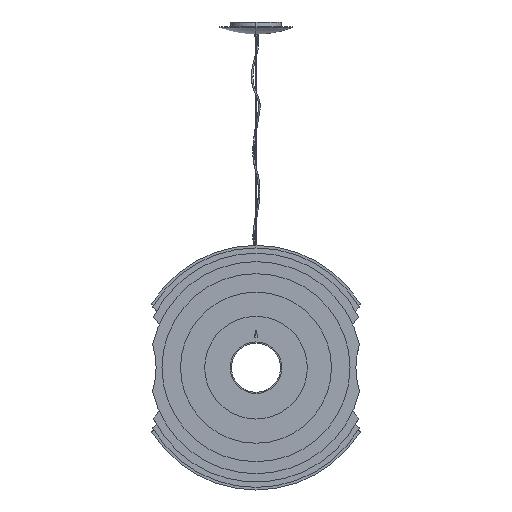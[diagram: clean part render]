
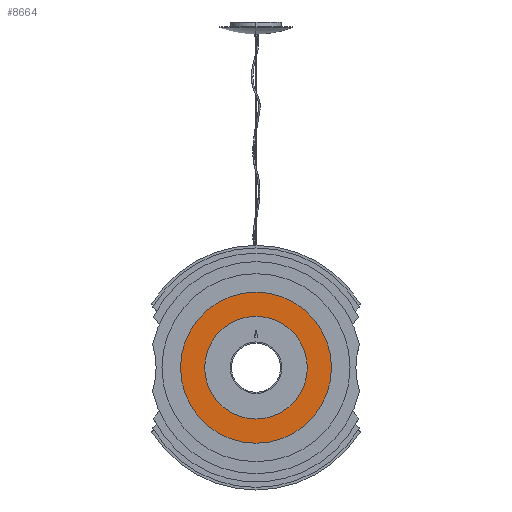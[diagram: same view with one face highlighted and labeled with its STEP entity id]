
A CAD part, left-side view. The second image highlights one B-rep face of the part: STEP entity #8664.
In plain terms, the highlighted planar face has unit normal (-1, 0, 0).
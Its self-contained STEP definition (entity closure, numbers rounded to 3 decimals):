
#119 = CARTESIAN_POINT ( 'NONE',  ( -376.839, 41.08, 142.552 ) ) ;
#183 = CARTESIAN_POINT ( 'NONE',  ( -376.839, 44.23, 43.753 ) ) ;
#188 = ORIENTED_EDGE ( 'NONE', *, *, #11236, .F. ) ;
#509 = VERTEX_POINT ( 'NONE', #1046 ) ;
#516 = DIRECTION ( 'NONE',  ( 0., 0., -1. ) ) ;
#604 = DIRECTION ( 'NONE',  ( 0., 0., 1. ) ) ;
#926 = ORIENTED_EDGE ( 'NONE', *, *, #5475, .T. ) ;
#1004 = DIRECTION ( 'NONE',  ( 0., 0., 1. ) ) ;
#1019 = LINE ( 'NONE', #2668, #6609 ) ;
#1046 = CARTESIAN_POINT ( 'NONE',  ( -376.839, 44.23, -140.997 ) ) ;
#1062 = EDGE_LOOP ( 'NONE', ( #10476, #4500 ) ) ;
#1181 = CARTESIAN_POINT ( 'NONE',  ( -376.839, 43.73, 156.929 ) ) ;
#1197 = VERTEX_POINT ( 'NONE', #3798 ) ;
#1453 = EDGE_CURVE ( 'NONE', #7651, #7268, #7880, .T. ) ;
#1515 = VERTEX_POINT ( 'NONE', #2641 ) ;
#1529 = DIRECTION ( 'NONE',  ( -1., 0., 0. ) ) ;
#1771 = ORIENTED_EDGE ( 'NONE', *, *, #1453, .T. ) ;
#1803 = DIRECTION ( 'NONE',  ( 1., 0., 0. ) ) ;
#1866 = DIRECTION ( 'NONE',  ( 0., -1., 0. ) ) ;
#1975 = CARTESIAN_POINT ( 'NONE',  ( -376.839, 44.23, 151.552 ) ) ;
#1985 = VERTEX_POINT ( 'NONE', #2163 ) ;
#2163 = CARTESIAN_POINT ( 'NONE',  ( -376.839, 44.23, -50.247 ) ) ;
#2326 = CARTESIAN_POINT ( 'NONE',  ( -376.839, 44.23, 43.753 ) ) ;
#2397 = CARTESIAN_POINT ( 'NONE',  ( -376.839, 228.98, -140.997 ) ) ;
#2429 = ORIENTED_EDGE ( 'NONE', *, *, #9042, .F. ) ;
#2523 = ORIENTED_EDGE ( 'NONE', *, *, #8608, .T. ) ;
#2641 = CARTESIAN_POINT ( 'NONE',  ( -376.839, 44.23, 137.753 ) ) ;
#2668 = CARTESIAN_POINT ( 'NONE',  ( -376.839, 44.23, 151.552 ) ) ;
#2679 = VERTEX_POINT ( 'NONE', #10083 ) ;
#3014 = ORIENTED_EDGE ( 'NONE', *, *, #6442, .T. ) ;
#3031 = FACE_BOUND ( 'NONE', #3696, .T. ) ;
#3060 = DIRECTION ( 'NONE',  ( 1., 0., 0. ) ) ;
#3091 = LINE ( 'NONE', #3918, #9608 ) ;
#3142 = VECTOR ( 'NONE', #9845, 1000. ) ;
#3439 = VERTEX_POINT ( 'NONE', #4614 ) ;
#3478 = CARTESIAN_POINT ( 'NONE',  ( -376.839, 44.23, 228.503 ) ) ;
#3685 = VERTEX_POINT ( 'NONE', #3478 ) ;
#3696 = EDGE_LOOP ( 'NONE', ( #3014, #7529 ) ) ;
#3798 = CARTESIAN_POINT ( 'NONE',  ( -376.839, 41.08, 151.552 ) ) ;
#3843 = CARTESIAN_POINT ( 'NONE',  ( -376.839, 43.73, -140.997 ) ) ;
#3918 = CARTESIAN_POINT ( 'NONE',  ( -376.839, 44.73, -140.997 ) ) ;
#3992 = CARTESIAN_POINT ( 'NONE',  ( -376.839, 44.23, 43.753 ) ) ;
#4041 = CARTESIAN_POINT ( 'NONE',  ( -376.839, 43.73, 156.929 ) ) ;
#4050 = VECTOR ( 'NONE', #516, 1000. ) ;
#4067 = FACE_BOUND ( 'NONE', #10729, .T. ) ;
#4187 = PLANE ( 'NONE',  #5766 ) ;
#4268 = EDGE_CURVE ( 'NONE', #1197, #7651, #10771, .T. ) ;
#4430 = CIRCLE ( 'NONE', #8647, 184.75 ) ;
#4435 = DIRECTION ( 'NONE',  ( -1., 0., 0. ) ) ;
#4500 = ORIENTED_EDGE ( 'NONE', *, *, #5934, .T. ) ;
#4614 = CARTESIAN_POINT ( 'NONE',  ( -376.839, 43.73, 151.552 ) ) ;
#4653 = DIRECTION ( 'NONE',  ( 0., 0., 1. ) ) ;
#4755 = DIRECTION ( 'NONE',  ( 0., 1., 0. ) ) ;
#4819 = DIRECTION ( 'NONE',  ( 0., 0., 1. ) ) ;
#4880 = ORIENTED_EDGE ( 'NONE', *, *, #4268, .T. ) ;
#5350 = DIRECTION ( 'NONE',  ( 0., 0., 1. ) ) ;
#5475 = EDGE_CURVE ( 'NONE', #8151, #2679, #1019, .T. ) ;
#5520 = LINE ( 'NONE', #1975, #3142 ) ;
#5539 = CIRCLE ( 'NONE', #11032, 184.75 ) ;
#5766 = AXIS2_PLACEMENT_3D ( 'NONE', #2397, #7635, #11084 ) ;
#5840 = CARTESIAN_POINT ( 'NONE',  ( -376.839, 47.38, 147.052 ) ) ;
#5934 = EDGE_CURVE ( 'NONE', #509, #3685, #4430, .T. ) ;
#6442 = EDGE_CURVE ( 'NONE', #1515, #1985, #9382, .T. ) ;
#6550 = FACE_OUTER_BOUND ( 'NONE', #1062, .T. ) ;
#6579 = ORIENTED_EDGE ( 'NONE', *, *, #10804, .T. ) ;
#6609 = VECTOR ( 'NONE', #1866, 1000. ) ;
#7011 = CARTESIAN_POINT ( 'NONE',  ( -376.839, 44.23, 142.552 ) ) ;
#7029 = VECTOR ( 'NONE', #4819, 1000. ) ;
#7032 = DIRECTION ( 'NONE',  ( 0., 0., -1. ) ) ;
#7136 = CARTESIAN_POINT ( 'NONE',  ( -376.839, 47.38, 142.552 ) ) ;
#7147 = EDGE_CURVE ( 'NONE', #3439, #1197, #5520, .T. ) ;
#7160 = EDGE_CURVE ( 'NONE', #1985, #1515, #7749, .T. ) ;
#7268 = VERTEX_POINT ( 'NONE', #7136 ) ;
#7476 = DIRECTION ( 'NONE',  ( 0., 0., -1. ) ) ;
#7529 = ORIENTED_EDGE ( 'NONE', *, *, #7160, .T. ) ;
#7617 = VECTOR ( 'NONE', #7032, 1000. ) ;
#7635 = DIRECTION ( 'NONE',  ( -1., 0., 0. ) ) ;
#7651 = VERTEX_POINT ( 'NONE', #119 ) ;
#7749 = CIRCLE ( 'NONE', #8671, 94. ) ;
#7880 = LINE ( 'NONE', #7011, #10114 ) ;
#8151 = VERTEX_POINT ( 'NONE', #10421 ) ;
#8343 = ORIENTED_EDGE ( 'NONE', *, *, #7147, .T. ) ;
#8561 = LINE ( 'NONE', #5840, #7029 ) ;
#8608 = EDGE_CURVE ( 'NONE', #7268, #8151, #8561, .T. ) ;
#8647 = AXIS2_PLACEMENT_3D ( 'NONE', #9841, #4435, #5350 ) ;
#8664 = ADVANCED_FACE ( 'NONE', ( #3031, #6550, #4067 ), #4187, .T. ) ;
#8671 = AXIS2_PLACEMENT_3D ( 'NONE', #183, #1803, #1004 ) ;
#8810 = CARTESIAN_POINT ( 'NONE',  ( -376.839, 41.08, 147.052 ) ) ;
#9042 = EDGE_CURVE ( 'NONE', #9936, #2679, #3091, .T. ) ;
#9198 = VECTOR ( 'NONE', #4755, 1000. ) ;
#9279 = CARTESIAN_POINT ( 'NONE',  ( -376.839, 44.73, 156.929 ) ) ;
#9382 = CIRCLE ( 'NONE', #11223, 94. ) ;
#9608 = VECTOR ( 'NONE', #7476, 1000. ) ;
#9841 = CARTESIAN_POINT ( 'NONE',  ( -376.839, 44.23, 43.753 ) ) ;
#9845 = DIRECTION ( 'NONE',  ( 0., -1., 0. ) ) ;
#9936 = VERTEX_POINT ( 'NONE', #9279 ) ;
#10004 = LINE ( 'NONE', #3843, #4050 ) ;
#10083 = CARTESIAN_POINT ( 'NONE',  ( -376.839, 44.73, 151.552 ) ) ;
#10114 = VECTOR ( 'NONE', #11334, 1000. ) ;
#10191 = VERTEX_POINT ( 'NONE', #1181 ) ;
#10421 = CARTESIAN_POINT ( 'NONE',  ( -376.839, 47.38, 151.552 ) ) ;
#10476 = ORIENTED_EDGE ( 'NONE', *, *, #11296, .T. ) ;
#10729 = EDGE_LOOP ( 'NONE', ( #188, #6579, #8343, #4880, #1771, #2523, #926, #2429 ) ) ;
#10771 = LINE ( 'NONE', #8810, #7617 ) ;
#10798 = LINE ( 'NONE', #4041, #9198 ) ;
#10804 = EDGE_CURVE ( 'NONE', #10191, #3439, #10004, .T. ) ;
#11032 = AXIS2_PLACEMENT_3D ( 'NONE', #2326, #1529, #4653 ) ;
#11084 = DIRECTION ( 'NONE',  ( 0., -1., 0. ) ) ;
#11223 = AXIS2_PLACEMENT_3D ( 'NONE', #3992, #3060, #604 ) ;
#11236 = EDGE_CURVE ( 'NONE', #10191, #9936, #10798, .T. ) ;
#11296 = EDGE_CURVE ( 'NONE', #3685, #509, #5539, .T. ) ;
#11334 = DIRECTION ( 'NONE',  ( 0., 1., 0. ) ) ;
